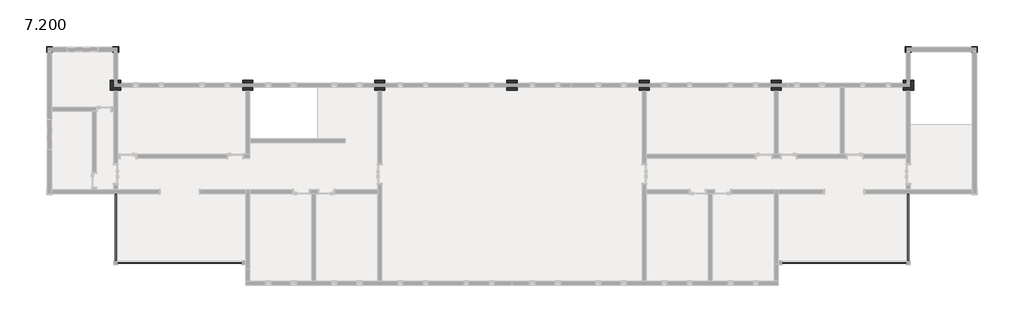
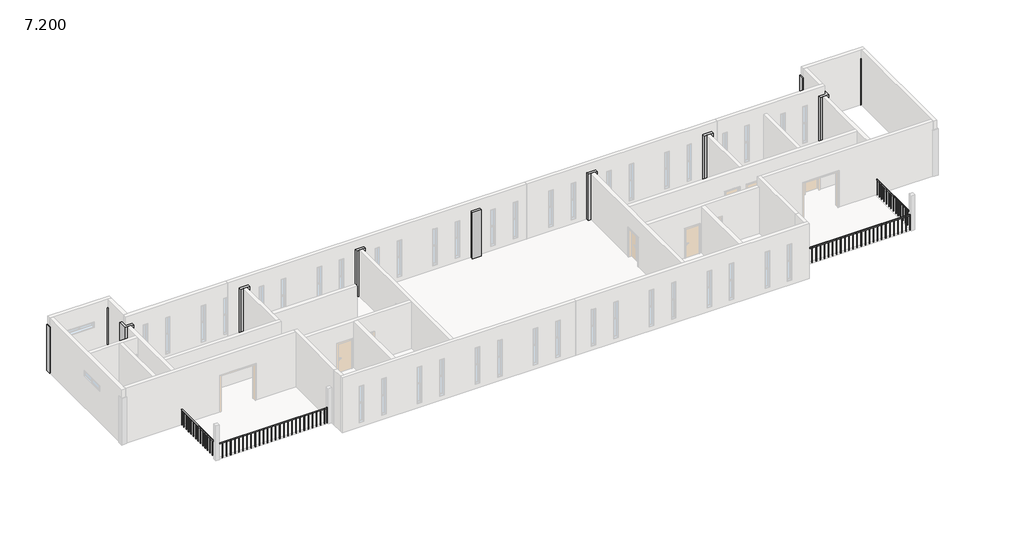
# One storey, part 3 of 3: 11 columns, 4 railings.
"""IFC4 building model written with IfcOpenShell, lengths in millimetres."""

from ifc_helpers import new_model, si_unit, frame, origin, place, context, project, spatial, polyline, outline, extrude, transform, mapped, element, save
from components import z1_350mmx350mm_a98c464a, z1_350mmx350mm_13159b50, z2_600mmx600mm_15ef50ab, z2_600mmx600mm_110e3af3

model = new_model("IFC4")

# Units and contexts
model_context = context("Model", 3, world=origin())
ifc_project = project(units=[si_unit("LENGTHUNIT", "METRE", prefix="MILLI")], contexts=[model_context])

# Site, building, storey
site = spatial("IfcSite", under=ifc_project)
building = spatial("IfcBuilding", under=site)
storey = spatial("IfcBuildingStorey", under=building, Name="7.200", Elevation=7200.0)

# Columns
placement = place(None, origin())
z1_350mmx350mm_shape = z1_350mmx350mm_a98c464a(model_context)
element("IfcColumn", 1, ObjectType="混凝土 - 矩形 - 柱 : Z1-350mmX350mm", at=placement, inside=storey, context=model_context, shape_type="MappedRepresentation", body=[
    mapped(z1_350mmx350mm_shape, transform((-7567.0109656, 7616.6095817, 0.0), x_axis=(1.0, 0.0, 0.0), y_axis=(0.0, 1.0, 0.0), z_axis=(0.0, 0.0, 1.0))),
])
element("IfcColumn", 2, ObjectType="混凝土 - 矩形 - 柱 : Z1-350mmX350mm", at=placement, inside=storey, context=model_context, shape_type="MappedRepresentation", body=[
    mapped(z1_350mmx350mm_shape, transform((-3667.0109656, 7616.6095817, 0.0), x_axis=(1.0, 0.0, 0.0), y_axis=(0.0, 1.0, 0.0), z_axis=(0.0, 0.0, 1.0))),
])
z1_350mmx350mm_2_shape = z1_350mmx350mm_13159b50(model_context)
element("IfcColumn", 3, ObjectType="混凝土 - 矩形 - 柱 : Z1-350mmX350mm", at=placement, inside=storey, context=model_context, shape_type="MappedRepresentation", body=[
    mapped(z1_350mmx350mm_2_shape, transform((47032.9890344, 7616.6095817, 0.0), x_axis=(-1.0, 0.0, 0.0), y_axis=(0.0, -1.0, 0.0), z_axis=(0.0, 0.0, 1.0))),
])
element("IfcColumn", 4, ObjectType="混凝土 - 矩形 - 柱 : Z1-350mmX350mm", at=placement, inside=storey, context=model_context, shape_type="MappedRepresentation", body=[
    mapped(z1_350mmx350mm_2_shape, transform((43132.9890344, 7616.6095817, 0.0), x_axis=(-1.0, 0.0, 0.0), y_axis=(0.0, -1.0, 0.0), z_axis=(0.0, 0.0, 1.0))),
])
z2_600mmx600mm_shape = z2_600mmx600mm_15ef50ab(model_context)
element("IfcColumn", 5, ObjectType="混凝土 - 矩形 - 柱 : Z2-600mmX600mm", at=placement, inside=storey, context=model_context, shape_type="MappedRepresentation", body=[
    mapped(z2_600mmx600mm_shape, transform((-3667.0109656, 5516.6095817, 0.0), x_axis=(1.0, 0.0, 0.0), y_axis=(0.0, 1.0, 0.0), z_axis=(0.0, 0.0, 1.0))),
])
element("IfcColumn", 6, ObjectType="混凝土 - 矩形 - 柱 : Z2-600mmX600mm", at=placement, inside=storey, context=model_context, shape_type="MappedRepresentation", body=[
    mapped(z2_600mmx600mm_shape, transform((4132.9890344, 5516.6095817, 0.0), x_axis=(1.0, 0.0, 0.0), y_axis=(0.0, 1.0, 0.0), z_axis=(0.0, 0.0, 1.0))),
])
element("IfcColumn", 7, ObjectType="混凝土 - 矩形 - 柱 : Z2-600mmX600mm", at=placement, inside=storey, context=model_context, shape_type="MappedRepresentation", body=[
    mapped(z2_600mmx600mm_shape, transform((11932.9890344, 5516.6095817, 0.0), x_axis=(1.0, 0.0, 0.0), y_axis=(0.0, 1.0, 0.0), z_axis=(0.0, 0.0, 1.0))),
])
element("IfcColumn", 8, ObjectType="混凝土 - 矩形 - 柱 : Z2-600mmX600mm", at=placement, inside=storey, context=model_context, shape_type="MappedRepresentation", body=[
    mapped(z2_600mmx600mm_shape, transform((19732.9890344, 5516.6095817, 0.0), x_axis=(1.0, 0.0, 0.0), y_axis=(0.0, 1.0, 0.0), z_axis=(0.0, 0.0, 1.0))),
])
z2_600mmx600mm_2_shape = z2_600mmx600mm_110e3af3(model_context)
element("IfcColumn", 9, ObjectType="混凝土 - 矩形 - 柱 : Z2-600mmX600mm", at=placement, inside=storey, context=model_context, shape_type="MappedRepresentation", body=[
    mapped(z2_600mmx600mm_2_shape, transform((43132.9890344, 5516.6095817, 0.0), x_axis=(-1.0, 0.0, 0.0), y_axis=(0.0, -1.0, 0.0), z_axis=(0.0, 0.0, 1.0))),
])
element("IfcColumn", 10, ObjectType="混凝土 - 矩形 - 柱 : Z2-600mmX600mm", at=placement, inside=storey, context=model_context, shape_type="MappedRepresentation", body=[
    mapped(z2_600mmx600mm_2_shape, transform((35332.9890344, 5516.6095817, 0.0), x_axis=(-1.0, 0.0, 0.0), y_axis=(0.0, -1.0, 0.0), z_axis=(0.0, 0.0, 1.0))),
])
element("IfcColumn", 11, ObjectType="混凝土 - 矩形 - 柱 : Z2-600mmX600mm", at=placement, inside=storey, context=model_context, shape_type="MappedRepresentation", body=[
    mapped(z2_600mmx600mm_2_shape, transform((27532.9890344, 5516.6095817, 0.0), x_axis=(-1.0, 0.0, 0.0), y_axis=(0.0, -1.0, 0.0), z_axis=(0.0, 0.0, 1.0))),
])

# Railings
element("IfcRailing", 12, ObjectType="1100mm", at=placement, inside=storey, context=model_context, shape_type="SweptSolid", body=[
    extrude(outline(polyline([(-3692.0109656, -903.3904183), (-3642.0109656, -903.3904183), (-3642.0109656, -4863.3904183), (-3692.0109656, -4863.3904183), (-3692.0109656, -903.3904183)])), frame((0.0, 0.0, 8250.0), z_axis=(0.0, 0.0, 1.0), x_axis=(1.0, 0.0, 0.0)), (0.0, 0.0, 1.0), 50.0),
    extrude(outline(polyline([(-3679.5109656, -4740.8904183), (-3654.5109656, -4740.8904183), (-3654.5109656, -4765.8904183), (-3679.5109656, -4765.8904183), (-3679.5109656, -4740.8904183)])), frame((0.0, 0.0, 7200.0), z_axis=(0.0, 0.0, 1.0), x_axis=(1.0, 0.0, 0.0)), (0.0, 0.0, 1.0), 1050.0),
    extrude(outline(polyline([(-3679.5109656, -4465.8904183), (-3654.5109656, -4465.8904183), (-3654.5109656, -4490.8904183), (-3679.5109656, -4490.8904183), (-3679.5109656, -4465.8904183)])), frame((0.0, 0.0, 7200.0), z_axis=(0.0, 0.0, 1.0), x_axis=(1.0, 0.0, 0.0)), (0.0, 0.0, 1.0), 1050.0),
    extrude(outline(polyline([(-3679.5109656, -4190.8904183), (-3654.5109656, -4190.8904183), (-3654.5109656, -4215.8904183), (-3679.5109656, -4215.8904183), (-3679.5109656, -4190.8904183)])), frame((0.0, 0.0, 7200.0), z_axis=(0.0, 0.0, 1.0), x_axis=(1.0, 0.0, 0.0)), (0.0, 0.0, 1.0), 1050.0),
    extrude(outline(polyline([(-3679.5109656, -3915.8904183), (-3654.5109656, -3915.8904183), (-3654.5109656, -3940.8904183), (-3679.5109656, -3940.8904183), (-3679.5109656, -3915.8904183)])), frame((0.0, 0.0, 7200.0), z_axis=(0.0, 0.0, 1.0), x_axis=(1.0, 0.0, 0.0)), (0.0, 0.0, 1.0), 1050.0),
    extrude(outline(polyline([(-3679.5109656, -3640.8904183), (-3654.5109656, -3640.8904183), (-3654.5109656, -3665.8904183), (-3679.5109656, -3665.8904183), (-3679.5109656, -3640.8904183)])), frame((0.0, 0.0, 7200.0), z_axis=(0.0, 0.0, 1.0), x_axis=(1.0, 0.0, 0.0)), (0.0, 0.0, 1.0), 1050.0),
    extrude(outline(polyline([(-3679.5109656, -3365.8904183), (-3654.5109656, -3365.8904183), (-3654.5109656, -3390.8904183), (-3679.5109656, -3390.8904183), (-3679.5109656, -3365.8904183)])), frame((0.0, 0.0, 7200.0), z_axis=(0.0, 0.0, 1.0), x_axis=(1.0, 0.0, 0.0)), (0.0, 0.0, 1.0), 1050.0),
    extrude(outline(polyline([(-3679.5109656, -3090.8904183), (-3654.5109656, -3090.8904183), (-3654.5109656, -3115.8904183), (-3679.5109656, -3115.8904183), (-3679.5109656, -3090.8904183)])), frame((0.0, 0.0, 7200.0), z_axis=(0.0, 0.0, 1.0), x_axis=(1.0, 0.0, 0.0)), (0.0, 0.0, 1.0), 1050.0),
    extrude(outline(polyline([(-3679.5109656, -2815.8904183), (-3654.5109656, -2815.8904183), (-3654.5109656, -2840.8904183), (-3679.5109656, -2840.8904183), (-3679.5109656, -2815.8904183)])), frame((0.0, 0.0, 7200.0), z_axis=(0.0, 0.0, 1.0), x_axis=(1.0, 0.0, 0.0)), (0.0, 0.0, 1.0), 1050.0),
    extrude(outline(polyline([(-3679.5109656, -2540.8904183), (-3654.5109656, -2540.8904183), (-3654.5109656, -2565.8904183), (-3679.5109656, -2565.8904183), (-3679.5109656, -2540.8904183)])), frame((0.0, 0.0, 7200.0), z_axis=(0.0, 0.0, 1.0), x_axis=(1.0, 0.0, 0.0)), (0.0, 0.0, 1.0), 1050.0),
    extrude(outline(polyline([(-3679.5109656, -2265.8904183), (-3654.5109656, -2265.8904183), (-3654.5109656, -2290.8904183), (-3679.5109656, -2290.8904183), (-3679.5109656, -2265.8904183)])), frame((0.0, 0.0, 7200.0), z_axis=(0.0, 0.0, 1.0), x_axis=(1.0, 0.0, 0.0)), (0.0, 0.0, 1.0), 1050.0),
    extrude(outline(polyline([(-3679.5109656, -1990.8904183), (-3654.5109656, -1990.8904183), (-3654.5109656, -2015.8904183), (-3679.5109656, -2015.8904183), (-3679.5109656, -1990.8904183)])), frame((0.0, 0.0, 7200.0), z_axis=(0.0, 0.0, 1.0), x_axis=(1.0, 0.0, 0.0)), (0.0, 0.0, 1.0), 1050.0),
    extrude(outline(polyline([(-3679.5109656, -1715.8904183), (-3654.5109656, -1715.8904183), (-3654.5109656, -1740.8904183), (-3679.5109656, -1740.8904183), (-3679.5109656, -1715.8904183)])), frame((0.0, 0.0, 7200.0), z_axis=(0.0, 0.0, 1.0), x_axis=(1.0, 0.0, 0.0)), (0.0, 0.0, 1.0), 1050.0),
    extrude(outline(polyline([(-3679.5109656, -1440.8904183), (-3654.5109656, -1440.8904183), (-3654.5109656, -1465.8904183), (-3679.5109656, -1465.8904183), (-3679.5109656, -1440.8904183)])), frame((0.0, 0.0, 7200.0), z_axis=(0.0, 0.0, 1.0), x_axis=(1.0, 0.0, 0.0)), (0.0, 0.0, 1.0), 1050.0),
    extrude(outline(polyline([(-3679.5109656, -1165.8904183), (-3654.5109656, -1165.8904183), (-3654.5109656, -1190.8904183), (-3679.5109656, -1190.8904183), (-3679.5109656, -1165.8904183)])), frame((0.0, 0.0, 7200.0), z_axis=(0.0, 0.0, 1.0), x_axis=(1.0, 0.0, 0.0)), (0.0, 0.0, 1.0), 1050.0),
    extrude(outline(polyline([(-3679.5109656, -4838.3904183), (-3654.5109656, -4838.3904183), (-3654.5109656, -4863.3904183), (-3679.5109656, -4863.3904183), (-3679.5109656, -4838.3904183)])), frame((0.0, 0.0, 7200.0), z_axis=(0.0, 0.0, 1.0), x_axis=(1.0, 0.0, 0.0)), (0.0, 0.0, 1.0), 1050.0),
    extrude(outline(polyline([(-3679.5109656, -903.3904183), (-3654.5109656, -903.3904183), (-3654.5109656, -928.3904183), (-3679.5109656, -928.3904183), (-3679.5109656, -903.3904183)])), frame((0.0, 0.0, 7200.0), z_axis=(0.0, 0.0, 1.0), x_axis=(1.0, 0.0, 0.0)), (0.0, 0.0, 1.0), 1050.0),
])
element("IfcRailing", 13, ObjectType="1100mm", at=placement, inside=storey, context=model_context, shape_type="SweptSolid", body=[
    extrude(outline(polyline([(-3547.0109656, -5008.3904183), (-3547.0109656, -4958.3904183), (3772.9890344, -4958.3904183), (3772.9890344, -5008.3904183), (-3547.0109656, -5008.3904183)])), frame((0.0, 0.0, 8250.0), z_axis=(0.0, 0.0, 1.0), x_axis=(1.0, 0.0, 0.0)), (0.0, 0.0, 1.0), 50.0),
    extrude(outline(polyline([(3590.4890344, -4995.8904183), (3590.4890344, -4970.8904183), (3615.4890344, -4970.8904183), (3615.4890344, -4995.8904183), (3590.4890344, -4995.8904183)])), frame((0.0, 0.0, 7200.0), z_axis=(0.0, 0.0, 1.0), x_axis=(1.0, 0.0, 0.0)), (0.0, 0.0, 1.0), 1050.0),
    extrude(outline(polyline([(3315.4890344, -4995.8904183), (3315.4890344, -4970.8904183), (3340.4890344, -4970.8904183), (3340.4890344, -4995.8904183), (3315.4890344, -4995.8904183)])), frame((0.0, 0.0, 7200.0), z_axis=(0.0, 0.0, 1.0), x_axis=(1.0, 0.0, 0.0)), (0.0, 0.0, 1.0), 1050.0),
    extrude(outline(polyline([(3040.4890344, -4995.8904183), (3040.4890344, -4970.8904183), (3065.4890344, -4970.8904183), (3065.4890344, -4995.8904183), (3040.4890344, -4995.8904183)])), frame((0.0, 0.0, 7200.0), z_axis=(0.0, 0.0, 1.0), x_axis=(1.0, 0.0, 0.0)), (0.0, 0.0, 1.0), 1050.0),
    extrude(outline(polyline([(2765.4890344, -4995.8904183), (2765.4890344, -4970.8904183), (2790.4890344, -4970.8904183), (2790.4890344, -4995.8904183), (2765.4890344, -4995.8904183)])), frame((0.0, 0.0, 7200.0), z_axis=(0.0, 0.0, 1.0), x_axis=(1.0, 0.0, 0.0)), (0.0, 0.0, 1.0), 1050.0),
    extrude(outline(polyline([(2490.4890344, -4995.8904183), (2490.4890344, -4970.8904183), (2515.4890344, -4970.8904183), (2515.4890344, -4995.8904183), (2490.4890344, -4995.8904183)])), frame((0.0, 0.0, 7200.0), z_axis=(0.0, 0.0, 1.0), x_axis=(1.0, 0.0, 0.0)), (0.0, 0.0, 1.0), 1050.0),
    extrude(outline(polyline([(2215.4890344, -4995.8904183), (2215.4890344, -4970.8904183), (2240.4890344, -4970.8904183), (2240.4890344, -4995.8904183), (2215.4890344, -4995.8904183)])), frame((0.0, 0.0, 7200.0), z_axis=(0.0, 0.0, 1.0), x_axis=(1.0, 0.0, 0.0)), (0.0, 0.0, 1.0), 1050.0),
    extrude(outline(polyline([(1940.4890344, -4995.8904183), (1940.4890344, -4970.8904183), (1965.4890344, -4970.8904183), (1965.4890344, -4995.8904183), (1940.4890344, -4995.8904183)])), frame((0.0, 0.0, 7200.0), z_axis=(0.0, 0.0, 1.0), x_axis=(1.0, 0.0, 0.0)), (0.0, 0.0, 1.0), 1050.0),
    extrude(outline(polyline([(1665.4890344, -4995.8904183), (1665.4890344, -4970.8904183), (1690.4890344, -4970.8904183), (1690.4890344, -4995.8904183), (1665.4890344, -4995.8904183)])), frame((0.0, 0.0, 7200.0), z_axis=(0.0, 0.0, 1.0), x_axis=(1.0, 0.0, 0.0)), (0.0, 0.0, 1.0), 1050.0),
    extrude(outline(polyline([(1390.4890344, -4995.8904183), (1390.4890344, -4970.8904183), (1415.4890344, -4970.8904183), (1415.4890344, -4995.8904183), (1390.4890344, -4995.8904183)])), frame((0.0, 0.0, 7200.0), z_axis=(0.0, 0.0, 1.0), x_axis=(1.0, 0.0, 0.0)), (0.0, 0.0, 1.0), 1050.0),
    extrude(outline(polyline([(1115.4890344, -4995.8904183), (1115.4890344, -4970.8904183), (1140.4890344, -4970.8904183), (1140.4890344, -4995.8904183), (1115.4890344, -4995.8904183)])), frame((0.0, 0.0, 7200.0), z_axis=(0.0, 0.0, 1.0), x_axis=(1.0, 0.0, 0.0)), (0.0, 0.0, 1.0), 1050.0),
    extrude(outline(polyline([(840.4890344, -4995.8904183), (840.4890344, -4970.8904183), (865.4890344, -4970.8904183), (865.4890344, -4995.8904183), (840.4890344, -4995.8904183)])), frame((0.0, 0.0, 7200.0), z_axis=(0.0, 0.0, 1.0), x_axis=(1.0, 0.0, 0.0)), (0.0, 0.0, 1.0), 1050.0),
    extrude(outline(polyline([(565.4890344, -4995.8904183), (565.4890344, -4970.8904183), (590.4890344, -4970.8904183), (590.4890344, -4995.8904183), (565.4890344, -4995.8904183)])), frame((0.0, 0.0, 7200.0), z_axis=(0.0, 0.0, 1.0), x_axis=(1.0, 0.0, 0.0)), (0.0, 0.0, 1.0), 1050.0),
    extrude(outline(polyline([(290.4890344, -4995.8904183), (290.4890344, -4970.8904183), (315.4890344, -4970.8904183), (315.4890344, -4995.8904183), (290.4890344, -4995.8904183)])), frame((0.0, 0.0, 7200.0), z_axis=(0.0, 0.0, 1.0), x_axis=(1.0, 0.0, 0.0)), (0.0, 0.0, 1.0), 1050.0),
    extrude(outline(polyline([(15.4890344, -4995.8904183), (15.4890344, -4970.8904183), (40.4890344, -4970.8904183), (40.4890344, -4995.8904183), (15.4890344, -4995.8904183)])), frame((0.0, 0.0, 7200.0), z_axis=(0.0, 0.0, 1.0), x_axis=(1.0, 0.0, 0.0)), (0.0, 0.0, 1.0), 1050.0),
    extrude(outline(polyline([(-259.5109656, -4995.8904183), (-259.5109656, -4970.8904183), (-234.5109656, -4970.8904183), (-234.5109656, -4995.8904183), (-259.5109656, -4995.8904183)])), frame((0.0, 0.0, 7200.0), z_axis=(0.0, 0.0, 1.0), x_axis=(1.0, 0.0, 0.0)), (0.0, 0.0, 1.0), 1050.0),
    extrude(outline(polyline([(-534.5109656, -4995.8904183), (-534.5109656, -4970.8904183), (-509.5109656, -4970.8904183), (-509.5109656, -4995.8904183), (-534.5109656, -4995.8904183)])), frame((0.0, 0.0, 7200.0), z_axis=(0.0, 0.0, 1.0), x_axis=(1.0, 0.0, 0.0)), (0.0, 0.0, 1.0), 1050.0),
    extrude(outline(polyline([(-809.5109656, -4995.8904183), (-809.5109656, -4970.8904183), (-784.5109656, -4970.8904183), (-784.5109656, -4995.8904183), (-809.5109656, -4995.8904183)])), frame((0.0, 0.0, 7200.0), z_axis=(0.0, 0.0, 1.0), x_axis=(1.0, 0.0, 0.0)), (0.0, 0.0, 1.0), 1050.0),
    extrude(outline(polyline([(-1084.5109656, -4995.8904183), (-1084.5109656, -4970.8904183), (-1059.5109656, -4970.8904183), (-1059.5109656, -4995.8904183), (-1084.5109656, -4995.8904183)])), frame((0.0, 0.0, 7200.0), z_axis=(0.0, 0.0, 1.0), x_axis=(1.0, 0.0, 0.0)), (0.0, 0.0, 1.0), 1050.0),
    extrude(outline(polyline([(-1359.5109656, -4995.8904183), (-1359.5109656, -4970.8904183), (-1334.5109656, -4970.8904183), (-1334.5109656, -4995.8904183), (-1359.5109656, -4995.8904183)])), frame((0.0, 0.0, 7200.0), z_axis=(0.0, 0.0, 1.0), x_axis=(1.0, 0.0, 0.0)), (0.0, 0.0, 1.0), 1050.0),
    extrude(outline(polyline([(-1634.5109656, -4995.8904183), (-1634.5109656, -4970.8904183), (-1609.5109656, -4970.8904183), (-1609.5109656, -4995.8904183), (-1634.5109656, -4995.8904183)])), frame((0.0, 0.0, 7200.0), z_axis=(0.0, 0.0, 1.0), x_axis=(1.0, 0.0, 0.0)), (0.0, 0.0, 1.0), 1050.0),
    extrude(outline(polyline([(-1909.5109656, -4995.8904183), (-1909.5109656, -4970.8904183), (-1884.5109656, -4970.8904183), (-1884.5109656, -4995.8904183), (-1909.5109656, -4995.8904183)])), frame((0.0, 0.0, 7200.0), z_axis=(0.0, 0.0, 1.0), x_axis=(1.0, 0.0, 0.0)), (0.0, 0.0, 1.0), 1050.0),
    extrude(outline(polyline([(-2184.5109656, -4995.8904183), (-2184.5109656, -4970.8904183), (-2159.5109656, -4970.8904183), (-2159.5109656, -4995.8904183), (-2184.5109656, -4995.8904183)])), frame((0.0, 0.0, 7200.0), z_axis=(0.0, 0.0, 1.0), x_axis=(1.0, 0.0, 0.0)), (0.0, 0.0, 1.0), 1050.0),
    extrude(outline(polyline([(-2459.5109656, -4995.8904183), (-2459.5109656, -4970.8904183), (-2434.5109656, -4970.8904183), (-2434.5109656, -4995.8904183), (-2459.5109656, -4995.8904183)])), frame((0.0, 0.0, 7200.0), z_axis=(0.0, 0.0, 1.0), x_axis=(1.0, 0.0, 0.0)), (0.0, 0.0, 1.0), 1050.0),
    extrude(outline(polyline([(-2734.5109656, -4995.8904183), (-2734.5109656, -4970.8904183), (-2709.5109656, -4970.8904183), (-2709.5109656, -4995.8904183), (-2734.5109656, -4995.8904183)])), frame((0.0, 0.0, 7200.0), z_axis=(0.0, 0.0, 1.0), x_axis=(1.0, 0.0, 0.0)), (0.0, 0.0, 1.0), 1050.0),
    extrude(outline(polyline([(-3009.5109656, -4995.8904183), (-3009.5109656, -4970.8904183), (-2984.5109656, -4970.8904183), (-2984.5109656, -4995.8904183), (-3009.5109656, -4995.8904183)])), frame((0.0, 0.0, 7200.0), z_axis=(0.0, 0.0, 1.0), x_axis=(1.0, 0.0, 0.0)), (0.0, 0.0, 1.0), 1050.0),
    extrude(outline(polyline([(-3284.5109656, -4995.8904183), (-3284.5109656, -4970.8904183), (-3259.5109656, -4970.8904183), (-3259.5109656, -4995.8904183), (-3284.5109656, -4995.8904183)])), frame((0.0, 0.0, 7200.0), z_axis=(0.0, 0.0, 1.0), x_axis=(1.0, 0.0, 0.0)), (0.0, 0.0, 1.0), 1050.0),
    extrude(outline(polyline([(3747.9890344, -4995.8904183), (3747.9890344, -4970.8904183), (3772.9890344, -4970.8904183), (3772.9890344, -4995.8904183), (3747.9890344, -4995.8904183)])), frame((0.0, 0.0, 7200.0), z_axis=(0.0, 0.0, 1.0), x_axis=(1.0, 0.0, 0.0)), (0.0, 0.0, 1.0), 1050.0),
    extrude(outline(polyline([(-3547.0109656, -4995.8904183), (-3547.0109656, -4970.8904183), (-3522.0109656, -4970.8904183), (-3522.0109656, -4995.8904183), (-3547.0109656, -4995.8904183)])), frame((0.0, 0.0, 7200.0), z_axis=(0.0, 0.0, 1.0), x_axis=(1.0, 0.0, 0.0)), (0.0, 0.0, 1.0), 1050.0),
])
element("IfcRailing", 14, ObjectType="1100mm", at=placement, inside=storey, context=model_context, shape_type="SweptSolid", body=[
    extrude(outline(polyline([(43107.9890344, -903.3904183), (43157.9890344, -903.3904183), (43157.9890344, -4863.3904183), (43107.9890344, -4863.3904183), (43107.9890344, -903.3904183)])), frame((0.0, 0.0, 8250.0), z_axis=(0.0, 0.0, 1.0), x_axis=(1.0, 0.0, 0.0)), (0.0, 0.0, 1.0), 50.0),
    extrude(outline(polyline([(43145.4890344, -4740.8904183), (43145.4890344, -4765.8904183), (43120.4890344, -4765.8904183), (43120.4890344, -4740.8904183), (43145.4890344, -4740.8904183)])), frame((0.0, 0.0, 7200.0), z_axis=(0.0, 0.0, 1.0), x_axis=(1.0, 0.0, 0.0)), (0.0, 0.0, 1.0), 1050.0),
    extrude(outline(polyline([(43145.4890344, -4465.8904183), (43145.4890344, -4490.8904183), (43120.4890344, -4490.8904183), (43120.4890344, -4465.8904183), (43145.4890344, -4465.8904183)])), frame((0.0, 0.0, 7200.0), z_axis=(0.0, 0.0, 1.0), x_axis=(1.0, 0.0, 0.0)), (0.0, 0.0, 1.0), 1050.0),
    extrude(outline(polyline([(43145.4890344, -4190.8904183), (43145.4890344, -4215.8904183), (43120.4890344, -4215.8904183), (43120.4890344, -4190.8904183), (43145.4890344, -4190.8904183)])), frame((0.0, 0.0, 7200.0), z_axis=(0.0, 0.0, 1.0), x_axis=(1.0, 0.0, 0.0)), (0.0, 0.0, 1.0), 1050.0),
    extrude(outline(polyline([(43145.4890344, -3915.8904183), (43145.4890344, -3940.8904183), (43120.4890344, -3940.8904183), (43120.4890344, -3915.8904183), (43145.4890344, -3915.8904183)])), frame((0.0, 0.0, 7200.0), z_axis=(0.0, 0.0, 1.0), x_axis=(1.0, 0.0, 0.0)), (0.0, 0.0, 1.0), 1050.0),
    extrude(outline(polyline([(43145.4890344, -3640.8904183), (43145.4890344, -3665.8904183), (43120.4890344, -3665.8904183), (43120.4890344, -3640.8904183), (43145.4890344, -3640.8904183)])), frame((0.0, 0.0, 7200.0), z_axis=(0.0, 0.0, 1.0), x_axis=(1.0, 0.0, 0.0)), (0.0, 0.0, 1.0), 1050.0),
    extrude(outline(polyline([(43145.4890344, -3365.8904183), (43145.4890344, -3390.8904183), (43120.4890344, -3390.8904183), (43120.4890344, -3365.8904183), (43145.4890344, -3365.8904183)])), frame((0.0, 0.0, 7200.0), z_axis=(0.0, 0.0, 1.0), x_axis=(1.0, 0.0, 0.0)), (0.0, 0.0, 1.0), 1050.0),
    extrude(outline(polyline([(43145.4890344, -3090.8904183), (43145.4890344, -3115.8904183), (43120.4890344, -3115.8904183), (43120.4890344, -3090.8904183), (43145.4890344, -3090.8904183)])), frame((0.0, 0.0, 7200.0), z_axis=(0.0, 0.0, 1.0), x_axis=(1.0, 0.0, 0.0)), (0.0, 0.0, 1.0), 1050.0),
    extrude(outline(polyline([(43145.4890344, -2815.8904183), (43145.4890344, -2840.8904183), (43120.4890344, -2840.8904183), (43120.4890344, -2815.8904183), (43145.4890344, -2815.8904183)])), frame((0.0, 0.0, 7200.0), z_axis=(0.0, 0.0, 1.0), x_axis=(1.0, 0.0, 0.0)), (0.0, 0.0, 1.0), 1050.0),
    extrude(outline(polyline([(43145.4890344, -2540.8904183), (43145.4890344, -2565.8904183), (43120.4890344, -2565.8904183), (43120.4890344, -2540.8904183), (43145.4890344, -2540.8904183)])), frame((0.0, 0.0, 7200.0), z_axis=(0.0, 0.0, 1.0), x_axis=(1.0, 0.0, 0.0)), (0.0, 0.0, 1.0), 1050.0),
    extrude(outline(polyline([(43145.4890344, -2265.8904183), (43145.4890344, -2290.8904183), (43120.4890344, -2290.8904183), (43120.4890344, -2265.8904183), (43145.4890344, -2265.8904183)])), frame((0.0, 0.0, 7200.0), z_axis=(0.0, 0.0, 1.0), x_axis=(1.0, 0.0, 0.0)), (0.0, 0.0, 1.0), 1050.0),
    extrude(outline(polyline([(43145.4890344, -1990.8904183), (43145.4890344, -2015.8904183), (43120.4890344, -2015.8904183), (43120.4890344, -1990.8904183), (43145.4890344, -1990.8904183)])), frame((0.0, 0.0, 7200.0), z_axis=(0.0, 0.0, 1.0), x_axis=(1.0, 0.0, 0.0)), (0.0, 0.0, 1.0), 1050.0),
    extrude(outline(polyline([(43145.4890344, -1715.8904183), (43145.4890344, -1740.8904183), (43120.4890344, -1740.8904183), (43120.4890344, -1715.8904183), (43145.4890344, -1715.8904183)])), frame((0.0, 0.0, 7200.0), z_axis=(0.0, 0.0, 1.0), x_axis=(1.0, 0.0, 0.0)), (0.0, 0.0, 1.0), 1050.0),
    extrude(outline(polyline([(43145.4890344, -1440.8904183), (43145.4890344, -1465.8904183), (43120.4890344, -1465.8904183), (43120.4890344, -1440.8904183), (43145.4890344, -1440.8904183)])), frame((0.0, 0.0, 7200.0), z_axis=(0.0, 0.0, 1.0), x_axis=(1.0, 0.0, 0.0)), (0.0, 0.0, 1.0), 1050.0),
    extrude(outline(polyline([(43145.4890344, -1165.8904183), (43145.4890344, -1190.8904183), (43120.4890344, -1190.8904183), (43120.4890344, -1165.8904183), (43145.4890344, -1165.8904183)])), frame((0.0, 0.0, 7200.0), z_axis=(0.0, 0.0, 1.0), x_axis=(1.0, 0.0, 0.0)), (0.0, 0.0, 1.0), 1050.0),
    extrude(outline(polyline([(43145.4890344, -4838.3904183), (43145.4890344, -4863.3904183), (43120.4890344, -4863.3904183), (43120.4890344, -4838.3904183), (43145.4890344, -4838.3904183)])), frame((0.0, 0.0, 7200.0), z_axis=(0.0, 0.0, 1.0), x_axis=(1.0, 0.0, 0.0)), (0.0, 0.0, 1.0), 1050.0),
    extrude(outline(polyline([(43145.4890344, -903.3904183), (43145.4890344, -928.3904183), (43120.4890344, -928.3904183), (43120.4890344, -903.3904183), (43145.4890344, -903.3904183)])), frame((0.0, 0.0, 7200.0), z_axis=(0.0, 0.0, 1.0), x_axis=(1.0, 0.0, 0.0)), (0.0, 0.0, 1.0), 1050.0),
])
element("IfcRailing", 15, ObjectType="1100mm", at=placement, inside=storey, context=model_context, shape_type="SweptSolid", body=[
    extrude(outline(polyline([(43012.9890344, -4958.3904183), (43012.9890344, -5008.3904183), (35692.9890344, -5008.3904183), (35692.9890344, -4958.3904183), (43012.9890344, -4958.3904183)])), frame((0.0, 0.0, 8250.0), z_axis=(0.0, 0.0, 1.0), x_axis=(1.0, 0.0, 0.0)), (0.0, 0.0, 1.0), 50.0),
    extrude(outline(polyline([(35875.4890344, -4995.8904183), (35850.4890344, -4995.8904183), (35850.4890344, -4970.8904183), (35875.4890344, -4970.8904183), (35875.4890344, -4995.8904183)])), frame((0.0, 0.0, 7200.0), z_axis=(0.0, 0.0, 1.0), x_axis=(1.0, 0.0, 0.0)), (0.0, 0.0, 1.0), 1050.0),
    extrude(outline(polyline([(36150.4890344, -4995.8904183), (36125.4890344, -4995.8904183), (36125.4890344, -4970.8904183), (36150.4890344, -4970.8904183), (36150.4890344, -4995.8904183)])), frame((0.0, 0.0, 7200.0), z_axis=(0.0, 0.0, 1.0), x_axis=(1.0, 0.0, 0.0)), (0.0, 0.0, 1.0), 1050.0),
    extrude(outline(polyline([(36425.4890344, -4995.8904183), (36400.4890344, -4995.8904183), (36400.4890344, -4970.8904183), (36425.4890344, -4970.8904183), (36425.4890344, -4995.8904183)])), frame((0.0, 0.0, 7200.0), z_axis=(0.0, 0.0, 1.0), x_axis=(1.0, 0.0, 0.0)), (0.0, 0.0, 1.0), 1050.0),
    extrude(outline(polyline([(36700.4890344, -4995.8904183), (36675.4890344, -4995.8904183), (36675.4890344, -4970.8904183), (36700.4890344, -4970.8904183), (36700.4890344, -4995.8904183)])), frame((0.0, 0.0, 7200.0), z_axis=(0.0, 0.0, 1.0), x_axis=(1.0, 0.0, 0.0)), (0.0, 0.0, 1.0), 1050.0),
    extrude(outline(polyline([(36975.4890344, -4995.8904183), (36950.4890344, -4995.8904183), (36950.4890344, -4970.8904183), (36975.4890344, -4970.8904183), (36975.4890344, -4995.8904183)])), frame((0.0, 0.0, 7200.0), z_axis=(0.0, 0.0, 1.0), x_axis=(1.0, 0.0, 0.0)), (0.0, 0.0, 1.0), 1050.0),
    extrude(outline(polyline([(37250.4890344, -4995.8904183), (37225.4890344, -4995.8904183), (37225.4890344, -4970.8904183), (37250.4890344, -4970.8904183), (37250.4890344, -4995.8904183)])), frame((0.0, 0.0, 7200.0), z_axis=(0.0, 0.0, 1.0), x_axis=(1.0, 0.0, 0.0)), (0.0, 0.0, 1.0), 1050.0),
    extrude(outline(polyline([(37525.4890344, -4995.8904183), (37500.4890344, -4995.8904183), (37500.4890344, -4970.8904183), (37525.4890344, -4970.8904183), (37525.4890344, -4995.8904183)])), frame((0.0, 0.0, 7200.0), z_axis=(0.0, 0.0, 1.0), x_axis=(1.0, 0.0, 0.0)), (0.0, 0.0, 1.0), 1050.0),
    extrude(outline(polyline([(37800.4890344, -4995.8904183), (37775.4890344, -4995.8904183), (37775.4890344, -4970.8904183), (37800.4890344, -4970.8904183), (37800.4890344, -4995.8904183)])), frame((0.0, 0.0, 7200.0), z_axis=(0.0, 0.0, 1.0), x_axis=(1.0, 0.0, 0.0)), (0.0, 0.0, 1.0), 1050.0),
    extrude(outline(polyline([(38075.4890344, -4995.8904183), (38050.4890344, -4995.8904183), (38050.4890344, -4970.8904183), (38075.4890344, -4970.8904183), (38075.4890344, -4995.8904183)])), frame((0.0, 0.0, 7200.0), z_axis=(0.0, 0.0, 1.0), x_axis=(1.0, 0.0, 0.0)), (0.0, 0.0, 1.0), 1050.0),
    extrude(outline(polyline([(38350.4890344, -4995.8904183), (38325.4890344, -4995.8904183), (38325.4890344, -4970.8904183), (38350.4890344, -4970.8904183), (38350.4890344, -4995.8904183)])), frame((0.0, 0.0, 7200.0), z_axis=(0.0, 0.0, 1.0), x_axis=(1.0, 0.0, 0.0)), (0.0, 0.0, 1.0), 1050.0),
    extrude(outline(polyline([(38625.4890344, -4995.8904183), (38600.4890344, -4995.8904183), (38600.4890344, -4970.8904183), (38625.4890344, -4970.8904183), (38625.4890344, -4995.8904183)])), frame((0.0, 0.0, 7200.0), z_axis=(0.0, 0.0, 1.0), x_axis=(1.0, 0.0, 0.0)), (0.0, 0.0, 1.0), 1050.0),
    extrude(outline(polyline([(38900.4890344, -4995.8904183), (38875.4890344, -4995.8904183), (38875.4890344, -4970.8904183), (38900.4890344, -4970.8904183), (38900.4890344, -4995.8904183)])), frame((0.0, 0.0, 7200.0), z_axis=(0.0, 0.0, 1.0), x_axis=(1.0, 0.0, 0.0)), (0.0, 0.0, 1.0), 1050.0),
    extrude(outline(polyline([(39175.4890344, -4995.8904183), (39150.4890344, -4995.8904183), (39150.4890344, -4970.8904183), (39175.4890344, -4970.8904183), (39175.4890344, -4995.8904183)])), frame((0.0, 0.0, 7200.0), z_axis=(0.0, 0.0, 1.0), x_axis=(1.0, 0.0, 0.0)), (0.0, 0.0, 1.0), 1050.0),
    extrude(outline(polyline([(39450.4890344, -4995.8904183), (39425.4890344, -4995.8904183), (39425.4890344, -4970.8904183), (39450.4890344, -4970.8904183), (39450.4890344, -4995.8904183)])), frame((0.0, 0.0, 7200.0), z_axis=(0.0, 0.0, 1.0), x_axis=(1.0, 0.0, 0.0)), (0.0, 0.0, 1.0), 1050.0),
    extrude(outline(polyline([(39725.4890344, -4995.8904183), (39700.4890344, -4995.8904183), (39700.4890344, -4970.8904183), (39725.4890344, -4970.8904183), (39725.4890344, -4995.8904183)])), frame((0.0, 0.0, 7200.0), z_axis=(0.0, 0.0, 1.0), x_axis=(1.0, 0.0, 0.0)), (0.0, 0.0, 1.0), 1050.0),
    extrude(outline(polyline([(40000.4890344, -4995.8904183), (39975.4890344, -4995.8904183), (39975.4890344, -4970.8904183), (40000.4890344, -4970.8904183), (40000.4890344, -4995.8904183)])), frame((0.0, 0.0, 7200.0), z_axis=(0.0, 0.0, 1.0), x_axis=(1.0, 0.0, 0.0)), (0.0, 0.0, 1.0), 1050.0),
    extrude(outline(polyline([(40275.4890344, -4995.8904183), (40250.4890344, -4995.8904183), (40250.4890344, -4970.8904183), (40275.4890344, -4970.8904183), (40275.4890344, -4995.8904183)])), frame((0.0, 0.0, 7200.0), z_axis=(0.0, 0.0, 1.0), x_axis=(1.0, 0.0, 0.0)), (0.0, 0.0, 1.0), 1050.0),
    extrude(outline(polyline([(40550.4890344, -4995.8904183), (40525.4890344, -4995.8904183), (40525.4890344, -4970.8904183), (40550.4890344, -4970.8904183), (40550.4890344, -4995.8904183)])), frame((0.0, 0.0, 7200.0), z_axis=(0.0, 0.0, 1.0), x_axis=(1.0, 0.0, 0.0)), (0.0, 0.0, 1.0), 1050.0),
    extrude(outline(polyline([(40825.4890344, -4995.8904183), (40800.4890344, -4995.8904183), (40800.4890344, -4970.8904183), (40825.4890344, -4970.8904183), (40825.4890344, -4995.8904183)])), frame((0.0, 0.0, 7200.0), z_axis=(0.0, 0.0, 1.0), x_axis=(1.0, 0.0, 0.0)), (0.0, 0.0, 1.0), 1050.0),
    extrude(outline(polyline([(41100.4890344, -4995.8904183), (41075.4890344, -4995.8904183), (41075.4890344, -4970.8904183), (41100.4890344, -4970.8904183), (41100.4890344, -4995.8904183)])), frame((0.0, 0.0, 7200.0), z_axis=(0.0, 0.0, 1.0), x_axis=(1.0, 0.0, 0.0)), (0.0, 0.0, 1.0), 1050.0),
    extrude(outline(polyline([(41375.4890344, -4995.8904183), (41350.4890344, -4995.8904183), (41350.4890344, -4970.8904183), (41375.4890344, -4970.8904183), (41375.4890344, -4995.8904183)])), frame((0.0, 0.0, 7200.0), z_axis=(0.0, 0.0, 1.0), x_axis=(1.0, 0.0, 0.0)), (0.0, 0.0, 1.0), 1050.0),
    extrude(outline(polyline([(41650.4890344, -4995.8904183), (41625.4890344, -4995.8904183), (41625.4890344, -4970.8904183), (41650.4890344, -4970.8904183), (41650.4890344, -4995.8904183)])), frame((0.0, 0.0, 7200.0), z_axis=(0.0, 0.0, 1.0), x_axis=(1.0, 0.0, 0.0)), (0.0, 0.0, 1.0), 1050.0),
    extrude(outline(polyline([(41925.4890344, -4995.8904183), (41900.4890344, -4995.8904183), (41900.4890344, -4970.8904183), (41925.4890344, -4970.8904183), (41925.4890344, -4995.8904183)])), frame((0.0, 0.0, 7200.0), z_axis=(0.0, 0.0, 1.0), x_axis=(1.0, 0.0, 0.0)), (0.0, 0.0, 1.0), 1050.0),
    extrude(outline(polyline([(42200.4890344, -4995.8904183), (42175.4890344, -4995.8904183), (42175.4890344, -4970.8904183), (42200.4890344, -4970.8904183), (42200.4890344, -4995.8904183)])), frame((0.0, 0.0, 7200.0), z_axis=(0.0, 0.0, 1.0), x_axis=(1.0, 0.0, 0.0)), (0.0, 0.0, 1.0), 1050.0),
    extrude(outline(polyline([(42475.4890344, -4995.8904183), (42450.4890344, -4995.8904183), (42450.4890344, -4970.8904183), (42475.4890344, -4970.8904183), (42475.4890344, -4995.8904183)])), frame((0.0, 0.0, 7200.0), z_axis=(0.0, 0.0, 1.0), x_axis=(1.0, 0.0, 0.0)), (0.0, 0.0, 1.0), 1050.0),
    extrude(outline(polyline([(42750.4890344, -4995.8904183), (42725.4890344, -4995.8904183), (42725.4890344, -4970.8904183), (42750.4890344, -4970.8904183), (42750.4890344, -4995.8904183)])), frame((0.0, 0.0, 7200.0), z_axis=(0.0, 0.0, 1.0), x_axis=(1.0, 0.0, 0.0)), (0.0, 0.0, 1.0), 1050.0),
    extrude(outline(polyline([(35717.9890344, -4995.8904183), (35692.9890344, -4995.8904183), (35692.9890344, -4970.8904183), (35717.9890344, -4970.8904183), (35717.9890344, -4995.8904183)])), frame((0.0, 0.0, 7200.0), z_axis=(0.0, 0.0, 1.0), x_axis=(1.0, 0.0, 0.0)), (0.0, 0.0, 1.0), 1050.0),
    extrude(outline(polyline([(43012.9890344, -4995.8904183), (42987.9890344, -4995.8904183), (42987.9890344, -4970.8904183), (43012.9890344, -4970.8904183), (43012.9890344, -4995.8904183)])), frame((0.0, 0.0, 7200.0), z_axis=(0.0, 0.0, 1.0), x_axis=(1.0, 0.0, 0.0)), (0.0, 0.0, 1.0), 1050.0),
])

save(model, "model.ifc")
